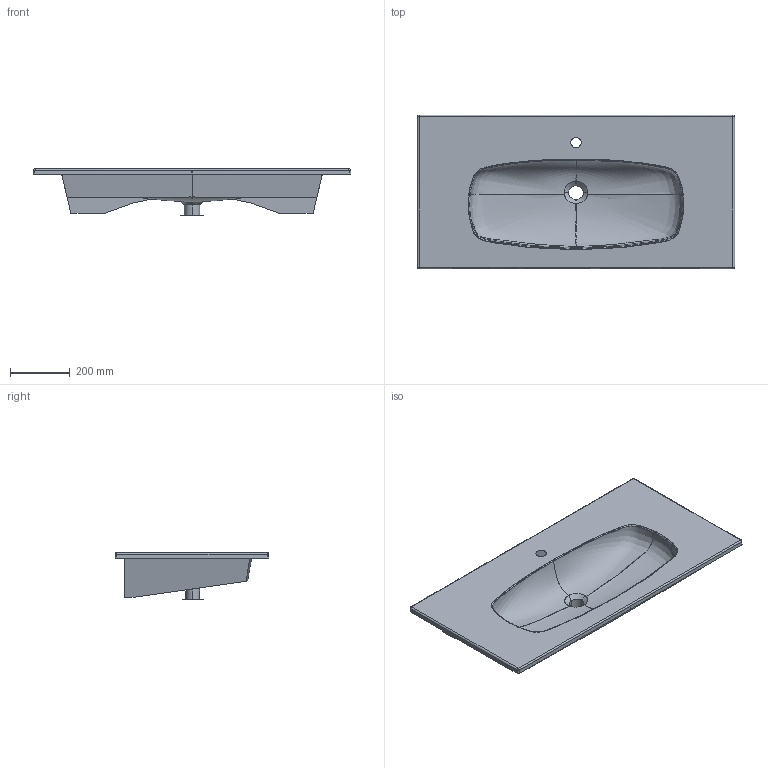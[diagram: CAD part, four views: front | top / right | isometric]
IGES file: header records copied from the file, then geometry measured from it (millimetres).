
Start section: START RECORD GO HERE.
Global section: file name: 3D Mabelle 106.igs; native system: DASSAULT SYSTEMES CATIA V5 R19 - www.3ds.com; preprocessor: CATIA Version 5 Release 19 SP 5 ; author: Luca; organization: DESKTOP-V7SON24; date: 20190410.123300; units: millimetre
Bounding box: 1065.07 x 515.63 x 156.5 mm (x, y, z)
Surface area: 1017906.2 mm2 (no closed solid volume)
Topology: 0 solids, 0 shells, 71 faces, 360 edges, 356 vertices
Faces by surface type: bspline 60, plane 11
